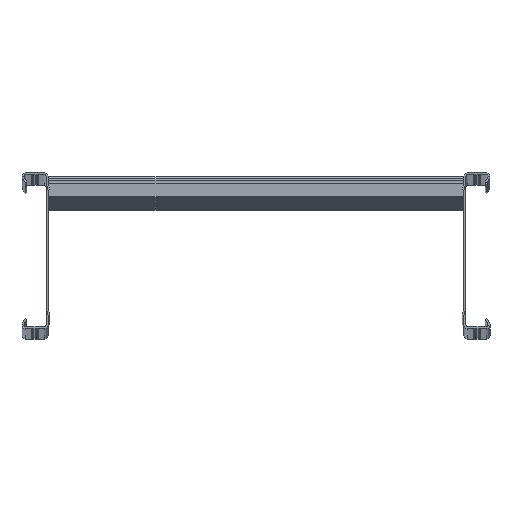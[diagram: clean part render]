
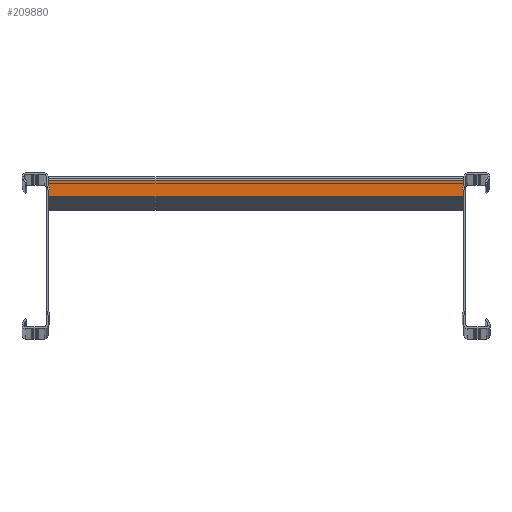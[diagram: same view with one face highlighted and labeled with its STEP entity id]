
A CAD part, top view. The second image highlights one B-rep face of the part: STEP entity #209880.
In plain terms, the highlighted planar face has unit normal (0, 0, 1) as drawn and (1, 0, 0) by its records, which use the part's own axes.
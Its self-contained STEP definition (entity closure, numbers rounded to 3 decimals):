
#205020=CARTESIAN_POINT('',(39.75,881.,200.));
#205030=VERTEX_POINT('',#205020);
#205060=CARTESIAN_POINT('',(39.75,0.,200.));
#205070=DIRECTION('',(0.,-1.,0.));
#205080=VECTOR('',#205070,1.);
#205090=LINE('',#205060,#205080);
#205100=CARTESIAN_POINT('',(39.75,897.,200.));
#205110=VERTEX_POINT('',#205100);
#205120=EDGE_CURVE('',#205110,#205030,#205090,.T.);
#209580=CARTESIAN_POINT('',(39.75,900.,0.));
#209590=DIRECTION('',(1.,0.,0.));
#209600=DIRECTION('',(0.,-1.,0.));
#209610=AXIS2_PLACEMENT_3D('',#209580,#209590,#209600);
#209620=PLANE('',#209610);
#209630=ORIENTED_EDGE('',*,*,#205120,.F.);
#209640=CARTESIAN_POINT('',(39.75,881.,0.));
#209650=DIRECTION('',(0.,0.,1.));
#209660=VECTOR('',#209650,1.);
#209670=LINE('',#209640,#209660);
#209680=CARTESIAN_POINT('',(39.75,881.,600.));
#209690=VERTEX_POINT('',#209680);
#209700=EDGE_CURVE('',#205030,#209690,#209670,.T.);
#209710=ORIENTED_EDGE('',*,*,#209700,.F.);
#209720=CARTESIAN_POINT('',(39.75,0.,600.));
#209730=DIRECTION('',(0.,1.,0.));
#209740=VECTOR('',#209730,1.);
#209750=LINE('',#209720,#209740);
#209760=CARTESIAN_POINT('',(39.75,897.,600.));
#209770=VERTEX_POINT('',#209760);
#209780=EDGE_CURVE('',#209690,#209770,#209750,.T.);
#209790=ORIENTED_EDGE('',*,*,#209780,.F.);
#209800=CARTESIAN_POINT('',(39.75,897.,0.));
#209810=DIRECTION('',(0.,0.,1.));
#209820=VECTOR('',#209810,1.);
#209830=LINE('',#209800,#209820);
#209840=EDGE_CURVE('',#205110,#209770,#209830,.T.);
#209850=ORIENTED_EDGE('',*,*,#209840,.T.);
#209860=EDGE_LOOP('',(#209850,#209790,#209710,#209630));
#209870=FACE_OUTER_BOUND('',#209860,.T.);
#209880=ADVANCED_FACE('',(#209870),#209620,.T.);
